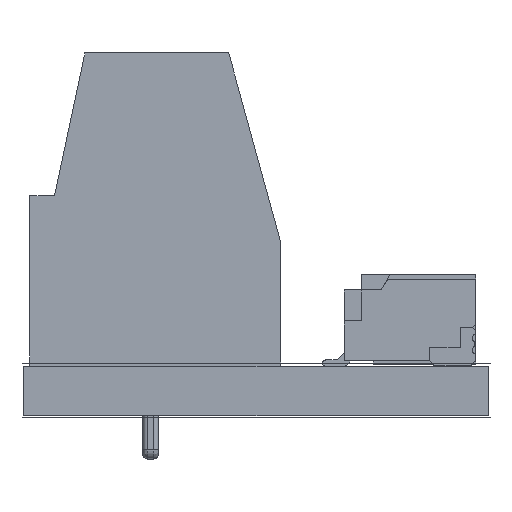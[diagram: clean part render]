
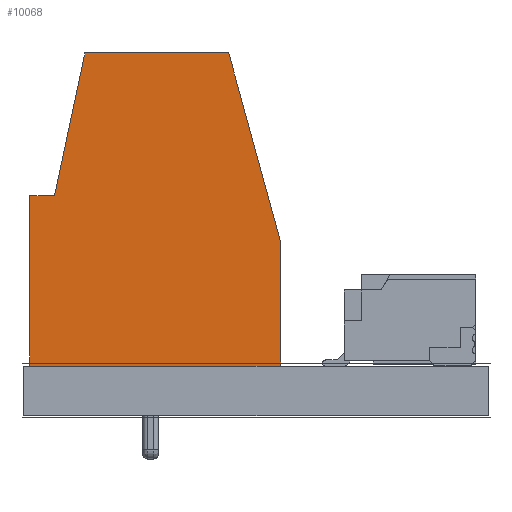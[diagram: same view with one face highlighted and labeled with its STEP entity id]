
A CAD part, left-side view. The second image highlights one B-rep face of the part: STEP entity #10068.
In plain terms, the highlighted planar face has unit normal (-1, 0, 0).
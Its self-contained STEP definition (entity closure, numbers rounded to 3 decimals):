
#9901 = VERTEX_POINT('',#9902);
#9902 = CARTESIAN_POINT('',(0.,3.9,0.)
  );
#9917 = VERTEX_POINT('',#9918);
#9918 = CARTESIAN_POINT('',(0.,-4.2,0.)
  );
#9924 = EDGE_CURVE('',#9901,#9917,#9925,.T.);
#9925 = LINE('',#9926,#9927);
#9926 = CARTESIAN_POINT('',(0.,-4.2,0.)
  );
#9927 = VECTOR('',#9928,1.);
#9928 = DIRECTION('',(0.,-1.,0.));
#10068 = ADVANCED_FACE('',(#10069),#10118,.F.);
#10069 = FACE_BOUND('',#10070,.T.);
#10070 = EDGE_LOOP('',(#10071,#10079,#10080,#10088,#10096,#10104,#10112)
  );
#10071 = ORIENTED_EDGE('',*,*,#10072,.F.);
#10072 = EDGE_CURVE('',#9901,#10073,#10075,.T.);
#10073 = VERTEX_POINT('',#10074);
#10074 = CARTESIAN_POINT('',(0.,3.9,5.5));
#10075 = LINE('',#10076,#10077);
#10076 = CARTESIAN_POINT('',(0.,3.9,4.57));
#10077 = VECTOR('',#10078,1.);
#10078 = DIRECTION('',(0.,0.,1.));
#10079 = ORIENTED_EDGE('',*,*,#9924,.T.);
#10080 = ORIENTED_EDGE('',*,*,#10081,.F.);
#10081 = EDGE_CURVE('',#10082,#9917,#10084,.T.);
#10082 = VERTEX_POINT('',#10083);
#10083 = CARTESIAN_POINT('',(0.,-4.2,4.));
#10084 = LINE('',#10085,#10086);
#10085 = CARTESIAN_POINT('',(0.,-4.2,4.57));
#10086 = VECTOR('',#10087,1.);
#10087 = DIRECTION('',(0.,0.,-1.));
#10088 = ORIENTED_EDGE('',*,*,#10089,.F.);
#10089 = EDGE_CURVE('',#10090,#10082,#10092,.T.);
#10090 = VERTEX_POINT('',#10091);
#10091 = CARTESIAN_POINT('',(0.,-2.52,10.1));
#10092 = LINE('',#10093,#10094);
#10093 = CARTESIAN_POINT('',(0.,-2.52,10.1));
#10094 = VECTOR('',#10095,1.);
#10095 = DIRECTION('',(0.,-0.266,
    -0.964));
#10096 = ORIENTED_EDGE('',*,*,#10097,.F.);
#10097 = EDGE_CURVE('',#10098,#10090,#10100,.T.);
#10098 = VERTEX_POINT('',#10099);
#10099 = CARTESIAN_POINT('',(0.,2.122,10.1));
#10100 = LINE('',#10101,#10102);
#10101 = CARTESIAN_POINT('',(0.,-0.108,10.1));
#10102 = VECTOR('',#10103,1.);
#10103 = DIRECTION('',(0.,-1.,-0.));
#10104 = ORIENTED_EDGE('',*,*,#10105,.F.);
#10105 = EDGE_CURVE('',#10106,#10098,#10108,.T.);
#10106 = VERTEX_POINT('',#10107);
#10107 = CARTESIAN_POINT('',(0.,3.1,5.5));
#10108 = LINE('',#10109,#10110);
#10109 = CARTESIAN_POINT('',(0.,3.1,5.5));
#10110 = VECTOR('',#10111,1.);
#10111 = DIRECTION('',(0.,-0.208,
    0.978));
#10112 = ORIENTED_EDGE('',*,*,#10113,.T.);
#10113 = EDGE_CURVE('',#10106,#10073,#10114,.T.);
#10114 = LINE('',#10115,#10116);
#10115 = CARTESIAN_POINT('',(0.,3.9,5.5));
#10116 = VECTOR('',#10117,1.);
#10117 = DIRECTION('',(0.,1.,0.));
#10118 = PLANE('',#10119);
#10119 = AXIS2_PLACEMENT_3D('',#10120,#10121,#10122);
#10120 = CARTESIAN_POINT('',(0.,-0.108,
    4.57));
#10121 = DIRECTION('',(1.,0.,0.));
#10122 = DIRECTION('',(0.,1.,0.));
